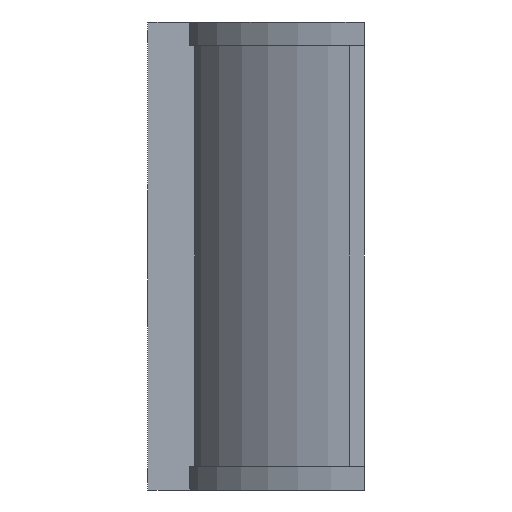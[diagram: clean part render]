
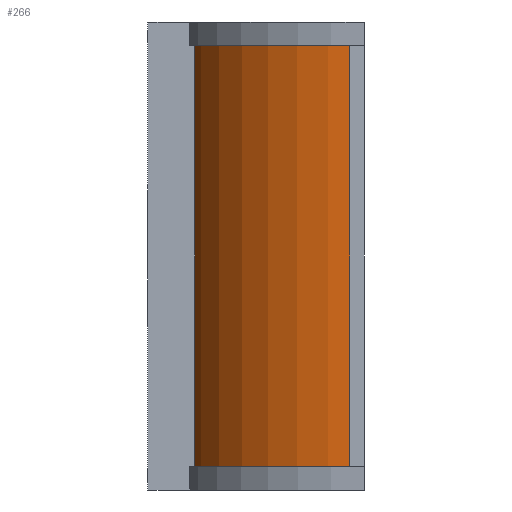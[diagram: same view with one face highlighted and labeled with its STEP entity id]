
A CAD part, left-side view. The second image highlights one B-rep face of the part: STEP entity #266.
In plain terms, the highlighted cylindrical face has radius 65 mm (diameter 130 mm), a partial arc.
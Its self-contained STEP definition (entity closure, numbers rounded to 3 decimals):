
#266 = ADVANCED_FACE( '', ( #737, #738 ), #739, .T. );
#737 = FACE_BOUND( '', #1470, .T. );
#738 = FACE_OUTER_BOUND( '', #1471, .T. );
#739 = CYLINDRICAL_SURFACE( '', #1472, 65. );
#1470 = EDGE_LOOP( '', ( #2299, #2300, #2301, #2302 ) );
#1471 = EDGE_LOOP( '', ( #2303, #2304, #2305, #2306, #2307, #2308, #2309, #2310 ) );
#1472 = AXIS2_PLACEMENT_3D( '', #2311, #2312, #2313 );
#2299 = ORIENTED_EDGE( '', *, *, #4210, .T. );
#2300 = ORIENTED_EDGE( '', *, *, #4211, .F. );
#2301 = ORIENTED_EDGE( '', *, *, #4212, .F. );
#2302 = ORIENTED_EDGE( '', *, *, #4213, .T. );
#2303 = ORIENTED_EDGE( '', *, *, #4214, .T. );
#2304 = ORIENTED_EDGE( '', *, *, #4215, .T. );
#2305 = ORIENTED_EDGE( '', *, *, #4216, .T. );
#2306 = ORIENTED_EDGE( '', *, *, #4217, .F. );
#2307 = ORIENTED_EDGE( '', *, *, #4218, .F. );
#2308 = ORIENTED_EDGE( '', *, *, #4161, .F. );
#2309 = ORIENTED_EDGE( '', *, *, #4219, .F. );
#2310 = ORIENTED_EDGE( '', *, *, #4220, .T. );
#2311 = CARTESIAN_POINT( '', ( 0., 0., 78.45 ) );
#2312 = DIRECTION( '', ( 0., 0., 1. ) );
#2313 = DIRECTION( '', ( -1., 0., 0. ) );
#4161 = EDGE_CURVE( '', #4969, #4972, #4973, .T. );
#4210 = EDGE_CURVE( '', #5061, #5062, #5063, .T. );
#4211 = EDGE_CURVE( '', #5064, #5062, #5065, .T. );
#4212 = EDGE_CURVE( '', #5066, #5064, #5067, .T. );
#4213 = EDGE_CURVE( '', #5066, #5061, #5068, .T. );
#4214 = EDGE_CURVE( '', #5069, #5070, #5071, .T. );
#4215 = EDGE_CURVE( '', #5070, #5072, #5073, .T. );
#4216 = EDGE_CURVE( '', #5072, #5074, #5075, .T. );
#4217 = EDGE_CURVE( '', #5076, #5074, #5077, .T. );
#4218 = EDGE_CURVE( '', #4972, #5076, #5078, .T. );
#4219 = EDGE_CURVE( '', #5079, #4969, #5080, .T. );
#4220 = EDGE_CURVE( '', #5079, #5069, #5081, .T. );
#4969 = VERTEX_POINT( '', #6148 );
#4972 = VERTEX_POINT( '', #6152 );
#4973 = LINE( '', #6153, #6154 );
#5061 = VERTEX_POINT( '', #6283 );
#5062 = VERTEX_POINT( '', #6284 );
#5063 = CIRCLE( '', #6285, 65. );
#5064 = VERTEX_POINT( '', #6286 );
#5065 = LINE( '', #6287, #6288 );
#5066 = VERTEX_POINT( '', #6289 );
#5067 = CIRCLE( '', #6290, 65. );
#5068 = LINE( '', #6291, #6292 );
#5069 = VERTEX_POINT( '', #6293 );
#5070 = VERTEX_POINT( '', #6294 );
#5071 = LINE( '', #6295, #6296 );
#5072 = VERTEX_POINT( '', #6297 );
#5073 = LINE( '', #6298, #6299 );
#5074 = VERTEX_POINT( '', #6300 );
#5075 = LINE( '', #6301, #6302 );
#5076 = VERTEX_POINT( '', #6303 );
#5077 = CIRCLE( '', #6304, 65. );
#5078 = LINE( '', #6305, #6306 );
#5079 = VERTEX_POINT( '', #6307 );
#5080 = LINE( '', #6308, #6309 );
#5081 = CIRCLE( '', #6310, 65. );
#6148 = CARTESIAN_POINT( '', ( -64.952, 2.5, 71.95 ) );
#6152 = CARTESIAN_POINT( '', ( -64.952, 2.5, -71.95 ) );
#6153 = CARTESIAN_POINT( '', ( -64.952, 2.5, 78.45 ) );
#6154 = VECTOR( '', #8143, 1000. );
#6283 = CARTESIAN_POINT( '', ( -27.276, 59., -71.8 ) );
#6284 = CARTESIAN_POINT( '', ( 27.276, 59., -71.8 ) );
#6285 = AXIS2_PLACEMENT_3D( '', #8206, #8207, #8208 );
#6286 = CARTESIAN_POINT( '', ( 27.276, 59., 71.8 ) );
#6287 = CARTESIAN_POINT( '', ( 27.276, 59., 80. ) );
#6288 = VECTOR( '', #8209, 1000. );
#6289 = CARTESIAN_POINT( '', ( -27.276, 59., 71.8 ) );
#6290 = AXIS2_PLACEMENT_3D( '', #8210, #8211, #8212 );
#6291 = CARTESIAN_POINT( '', ( -27.276, 59., 80. ) );
#6292 = VECTOR( '', #8213, 1000. );
#6293 = CARTESIAN_POINT( '', ( 64.952, 2.5, 72. ) );
#6294 = CARTESIAN_POINT( '', ( 64.952, 2.5, 71.95 ) );
#6295 = CARTESIAN_POINT( '', ( 64.952, 2.5, 78.45 ) );
#6296 = VECTOR( '', #8214, 1000. );
#6297 = CARTESIAN_POINT( '', ( 64.952, 2.5, -71.95 ) );
#6298 = CARTESIAN_POINT( '', ( 64.952, 2.5, 78.45 ) );
#6299 = VECTOR( '', #8215, 1000. );
#6300 = CARTESIAN_POINT( '', ( 64.952, 2.5, -72. ) );
#6301 = CARTESIAN_POINT( '', ( 64.952, 2.5, 78.45 ) );
#6302 = VECTOR( '', #8216, 1000. );
#6303 = CARTESIAN_POINT( '', ( -64.952, 2.5, -72. ) );
#6304 = AXIS2_PLACEMENT_3D( '', #8217, #8218, #8219 );
#6305 = CARTESIAN_POINT( '', ( -64.952, 2.5, 78.45 ) );
#6306 = VECTOR( '', #8220, 1000. );
#6307 = CARTESIAN_POINT( '', ( -64.952, 2.5, 72. ) );
#6308 = CARTESIAN_POINT( '', ( -64.952, 2.5, 78.45 ) );
#6309 = VECTOR( '', #8221, 1000. );
#6310 = AXIS2_PLACEMENT_3D( '', #8222, #8223, #8224 );
#8143 = DIRECTION( '', ( 0., 0., -1. ) );
#8206 = CARTESIAN_POINT( '', ( 0., 0., -71.8 ) );
#8207 = DIRECTION( '', ( 0., 0., -1. ) );
#8208 = DIRECTION( '', ( -1., 0., 0. ) );
#8209 = DIRECTION( '', ( 0., 0., -1. ) );
#8210 = CARTESIAN_POINT( '', ( 0., 0., 71.8 ) );
#8211 = DIRECTION( '', ( 0., 0., -1. ) );
#8212 = DIRECTION( '', ( -1., 0., 0. ) );
#8213 = DIRECTION( '', ( 0., 0., -1. ) );
#8214 = DIRECTION( '', ( 0., 0., -1. ) );
#8215 = DIRECTION( '', ( 0., 0., -1. ) );
#8216 = DIRECTION( '', ( 0., 0., -1. ) );
#8217 = CARTESIAN_POINT( '', ( 0., 0., -72. ) );
#8218 = DIRECTION( '', ( 0., 0., -1. ) );
#8219 = DIRECTION( '', ( -1., 0., 0. ) );
#8220 = DIRECTION( '', ( 0., 0., -1. ) );
#8221 = DIRECTION( '', ( 0., 0., -1. ) );
#8222 = CARTESIAN_POINT( '', ( 0., 0., 72. ) );
#8223 = DIRECTION( '', ( 0., 0., -1. ) );
#8224 = DIRECTION( '', ( -1., 0., 0. ) );
